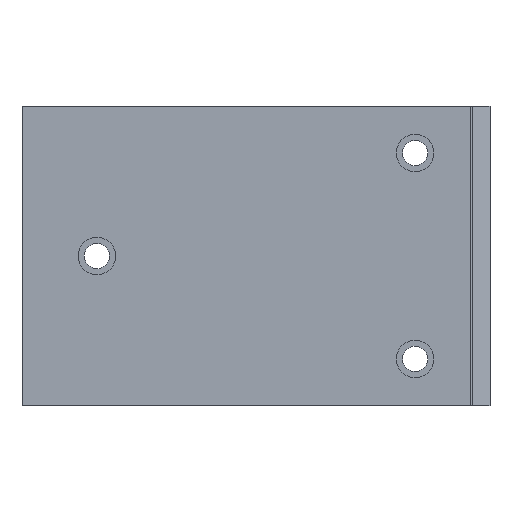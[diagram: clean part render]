
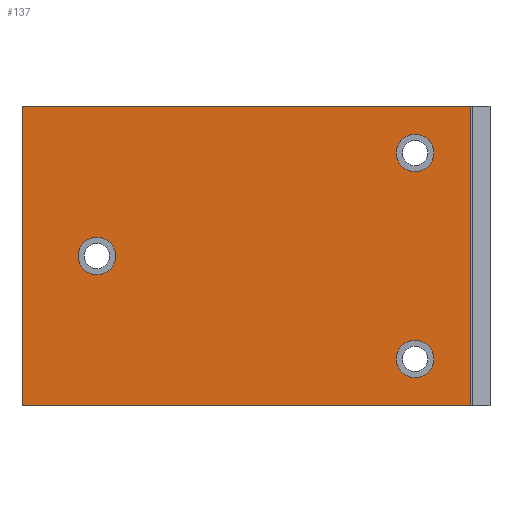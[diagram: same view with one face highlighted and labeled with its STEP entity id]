
A CAD part, top view. The second image highlights one B-rep face of the part: STEP entity #137.
In plain terms, the highlighted planar face has unit normal (0, 0, 1).
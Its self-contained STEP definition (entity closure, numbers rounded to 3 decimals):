
#4 = ORIENTED_EDGE ( 'NONE', *, *, #37, .F. ) ;
#12 = ORIENTED_EDGE ( 'NONE', *, *, #371, .F. ) ;
#15 = CIRCLE ( 'NONE', #130, 10. ) ;
#37 = EDGE_CURVE ( 'NONE', #307, #696, #745, .T. ) ;
#40 = VERTEX_POINT ( 'NONE', #683 ) ;
#50 = CARTESIAN_POINT ( 'NONE',  ( 0., 160., 20. ) ) ;
#52 = DIRECTION ( 'NONE',  ( 0., -1., 0. ) ) ;
#62 = LINE ( 'NONE', #120, #191 ) ;
#69 = VECTOR ( 'NONE', #414, 1000. ) ;
#71 = VERTEX_POINT ( 'NONE', #284 ) ;
#82 = EDGE_LOOP ( 'NONE', ( #520, #83 ) ) ;
#83 = ORIENTED_EDGE ( 'NONE', *, *, #648, .F. ) ;
#93 = CARTESIAN_POINT ( 'NONE',  ( 210., 135., 20. ) ) ;
#95 = LINE ( 'NONE', #568, #533 ) ;
#97 = DIRECTION ( 'NONE',  ( 0., 0., 1. ) ) ;
#115 = CARTESIAN_POINT ( 'NONE',  ( 40., 80., 20. ) ) ;
#120 = CARTESIAN_POINT ( 'NONE',  ( 119.671, 160., 20. ) ) ;
#130 = AXIS2_PLACEMENT_3D ( 'NONE', #618, #513, #675 ) ;
#137 = ADVANCED_FACE ( 'NONE', ( #655, #437, #596, #576 ), #741, .T. ) ;
#142 = ORIENTED_EDGE ( 'NONE', *, *, #555, .F. ) ;
#146 = DIRECTION ( 'NONE',  ( 1., 0., 0. ) ) ;
#167 = DIRECTION ( 'NONE',  ( 0., 0., 1. ) ) ;
#170 = EDGE_CURVE ( 'NONE', #696, #307, #15, .T. ) ;
#175 = ORIENTED_EDGE ( 'NONE', *, *, #600, .T. ) ;
#191 = VECTOR ( 'NONE', #733, 1000. ) ;
#208 = AXIS2_PLACEMENT_3D ( 'NONE', #395, #419, #612 ) ;
#215 = DIRECTION ( 'NONE',  ( 0., 0., 1. ) ) ;
#231 = CARTESIAN_POINT ( 'NONE',  ( 119.671, 0., 20. ) ) ;
#247 = EDGE_LOOP ( 'NONE', ( #589, #597, #175, #12 ) ) ;
#253 = VECTOR ( 'NONE', #734, 1000. ) ;
#270 = DIRECTION ( 'NONE',  ( 0., 0., 1. ) ) ;
#275 = AXIS2_PLACEMENT_3D ( 'NONE', #93, #215, #693 ) ;
#280 = CARTESIAN_POINT ( 'NONE',  ( 30., 80., 20. ) ) ;
#284 = CARTESIAN_POINT ( 'NONE',  ( 200., 135., 20. ) ) ;
#303 = CARTESIAN_POINT ( 'NONE',  ( 210., 135., 20. ) ) ;
#307 = VERTEX_POINT ( 'NONE', #397 ) ;
#316 = VERTEX_POINT ( 'NONE', #732 ) ;
#334 = VERTEX_POINT ( 'NONE', #280 ) ;
#345 = DIRECTION ( 'NONE',  ( 1., 0., 0. ) ) ;
#371 = EDGE_CURVE ( 'NONE', #635, #423, #681, .T. ) ;
#375 = EDGE_LOOP ( 'NONE', ( #4, #521 ) ) ;
#386 = CARTESIAN_POINT ( 'NONE',  ( 239.342, 0., 20. ) ) ;
#394 = AXIS2_PLACEMENT_3D ( 'NONE', #534, #97, #468 ) ;
#395 = CARTESIAN_POINT ( 'NONE',  ( 0., 160., 20. ) ) ;
#397 = CARTESIAN_POINT ( 'NONE',  ( 200., 25., 20. ) ) ;
#407 = CIRCLE ( 'NONE', #275, 10. ) ;
#410 = CIRCLE ( 'NONE', #577, 10. ) ;
#414 = DIRECTION ( 'NONE',  ( 1., 0., 0. ) ) ;
#417 = CARTESIAN_POINT ( 'NONE',  ( 40., 80., 20. ) ) ;
#419 = DIRECTION ( 'NONE',  ( 0., 0., 1. ) ) ;
#420 = CARTESIAN_POINT ( 'NONE',  ( 239.342, 160., 20. ) ) ;
#423 = VERTEX_POINT ( 'NONE', #386 ) ;
#437 = FACE_BOUND ( 'NONE', #375, .T. ) ;
#448 = CARTESIAN_POINT ( 'NONE',  ( 220., 25., 20. ) ) ;
#455 = DIRECTION ( 'NONE',  ( 1., 0., 0. ) ) ;
#468 = DIRECTION ( 'NONE',  ( 1., 0., 0. ) ) ;
#475 = AXIS2_PLACEMENT_3D ( 'NONE', #115, #167, #345 ) ;
#476 = EDGE_CURVE ( 'NONE', #334, #40, #410, .T. ) ;
#513 = DIRECTION ( 'NONE',  ( 0., 0., 1. ) ) ;
#517 = CARTESIAN_POINT ( 'NONE',  ( 0., 0., 20. ) ) ;
#520 = ORIENTED_EDGE ( 'NONE', *, *, #522, .F. ) ;
#521 = ORIENTED_EDGE ( 'NONE', *, *, #170, .F. ) ;
#522 = EDGE_CURVE ( 'NONE', #71, #316, #588, .T. ) ;
#533 = VECTOR ( 'NONE', #52, 1000. ) ;
#534 = CARTESIAN_POINT ( 'NONE',  ( 210., 25., 20. ) ) ;
#553 = VERTEX_POINT ( 'NONE', #50 ) ;
#555 = EDGE_CURVE ( 'NONE', #40, #334, #653, .T. ) ;
#568 = CARTESIAN_POINT ( 'NONE',  ( 0., 80., 20. ) ) ;
#576 = FACE_BOUND ( 'NONE', #660, .T. ) ;
#577 = AXIS2_PLACEMENT_3D ( 'NONE', #417, #758, #455 ) ;
#588 = CIRCLE ( 'NONE', #704, 10. ) ;
#589 = ORIENTED_EDGE ( 'NONE', *, *, #737, .F. ) ;
#596 = FACE_BOUND ( 'NONE', #82, .T. ) ;
#597 = ORIENTED_EDGE ( 'NONE', *, *, #659, .T. ) ;
#600 = EDGE_CURVE ( 'NONE', #646, #423, #708, .T. ) ;
#605 = ORIENTED_EDGE ( 'NONE', *, *, #476, .F. ) ;
#612 = DIRECTION ( 'NONE',  ( 1., 0., 0. ) ) ;
#618 = CARTESIAN_POINT ( 'NONE',  ( 210., 25., 20. ) ) ;
#635 = VERTEX_POINT ( 'NONE', #420 ) ;
#646 = VERTEX_POINT ( 'NONE', #517 ) ;
#648 = EDGE_CURVE ( 'NONE', #316, #71, #407, .T. ) ;
#653 = CIRCLE ( 'NONE', #475, 10. ) ;
#655 = FACE_OUTER_BOUND ( 'NONE', #247, .T. ) ;
#659 = EDGE_CURVE ( 'NONE', #553, #646, #95, .T. ) ;
#660 = EDGE_LOOP ( 'NONE', ( #605, #142 ) ) ;
#675 = DIRECTION ( 'NONE',  ( 1., 0., 0. ) ) ;
#681 = LINE ( 'NONE', #748, #253 ) ;
#683 = CARTESIAN_POINT ( 'NONE',  ( 50., 80., 20. ) ) ;
#693 = DIRECTION ( 'NONE',  ( 1., 0., 0. ) ) ;
#696 = VERTEX_POINT ( 'NONE', #448 ) ;
#704 = AXIS2_PLACEMENT_3D ( 'NONE', #303, #270, #146 ) ;
#708 = LINE ( 'NONE', #231, #69 ) ;
#732 = CARTESIAN_POINT ( 'NONE',  ( 220., 135., 20. ) ) ;
#733 = DIRECTION ( 'NONE',  ( 1., 0., 0. ) ) ;
#734 = DIRECTION ( 'NONE',  ( 0., -1., 0. ) ) ;
#737 = EDGE_CURVE ( 'NONE', #553, #635, #62, .T. ) ;
#741 = PLANE ( 'NONE',  #208 ) ;
#745 = CIRCLE ( 'NONE', #394, 10. ) ;
#748 = CARTESIAN_POINT ( 'NONE',  ( 239.342, 80., 20. ) ) ;
#758 = DIRECTION ( 'NONE',  ( 0., 0., 1. ) ) ;
